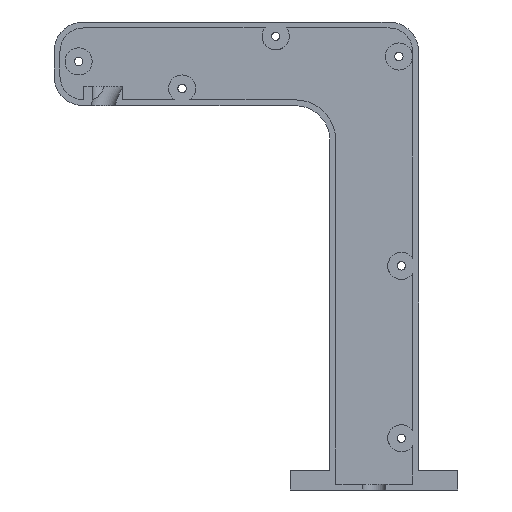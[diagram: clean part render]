
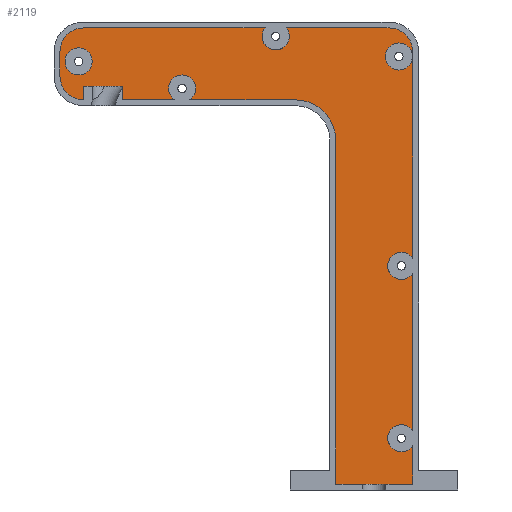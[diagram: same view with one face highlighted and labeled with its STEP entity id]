
A CAD part, left-side view. The second image highlights one B-rep face of the part: STEP entity #2119.
In plain terms, the highlighted planar face has unit normal (-1, 0, 0).
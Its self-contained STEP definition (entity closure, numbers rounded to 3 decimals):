
#1012 = VERTEX_POINT('',#1013);
#1013 = CARTESIAN_POINT('',(18.6,109.6,184.));
#1019 = EDGE_CURVE('',#1012,#1020,#1022,.T.);
#1020 = VERTEX_POINT('',#1021);
#1021 = CARTESIAN_POINT('',(18.6,100.,174.4));
#1022 = CIRCLE('',#1023,9.6);
#1023 = AXIS2_PLACEMENT_3D('',#1024,#1025,#1026);
#1024 = CARTESIAN_POINT('',(18.6,100.,184.));
#1025 = DIRECTION('',(-1.,0.,0.));
#1026 = DIRECTION('',(0.,1.,0.));
#1045 = VERTEX_POINT('',#1046);
#1046 = CARTESIAN_POINT('',(18.6,109.6,194.));
#1052 = EDGE_CURVE('',#1045,#1012,#1053,.T.);
#1053 = LINE('',#1054,#1055);
#1054 = CARTESIAN_POINT('',(18.6,109.6,194.));
#1055 = VECTOR('',#1056,1.);
#1056 = DIRECTION('',(0.,0.,-1.));
#1069 = VERTEX_POINT('',#1070);
#1070 = CARTESIAN_POINT('',(18.6,100.,203.6));
#1076 = EDGE_CURVE('',#1069,#1045,#1077,.T.);
#1077 = CIRCLE('',#1078,9.6);
#1078 = AXIS2_PLACEMENT_3D('',#1079,#1080,#1081);
#1079 = CARTESIAN_POINT('',(18.6,100.,194.));
#1080 = DIRECTION('',(-1.,0.,0.));
#1081 = DIRECTION('',(0.,0.,1.));
#1094 = VERTEX_POINT('',#1095);
#1095 = CARTESIAN_POINT('',(18.6,26.323,203.6));
#1101 = EDGE_CURVE('',#1094,#1069,#1102,.T.);
#1102 = LINE('',#1103,#1104);
#1103 = CARTESIAN_POINT('',(18.6,-24.,203.6));
#1104 = VECTOR('',#1105,1.);
#1105 = DIRECTION('',(0.,1.,0.));
#1117 = VERTEX_POINT('',#1118);
#1118 = CARTESIAN_POINT('',(18.6,17.677,203.6));
#1153 = EDGE_CURVE('',#1117,#1094,#1154,.T.);
#1154 = CIRCLE('',#1155,5.5);
#1155 = AXIS2_PLACEMENT_3D('',#1156,#1157,#1158);
#1156 = CARTESIAN_POINT('',(18.6,22.,200.2));
#1157 = DIRECTION('',(1.,0.,-0.));
#1158 = DIRECTION('',(0.,0.,1.));
#1183 = VERTEX_POINT('',#1184);
#1184 = CARTESIAN_POINT('',(18.6,-24.,203.6));
#1190 = EDGE_CURVE('',#1183,#1117,#1191,.T.);
#1191 = LINE('',#1192,#1193);
#1192 = CARTESIAN_POINT('',(18.6,-24.,203.6));
#1193 = VECTOR('',#1194,1.);
#1194 = DIRECTION('',(0.,1.,0.));
#1218 = VERTEX_POINT('',#1219);
#1219 = CARTESIAN_POINT('',(18.6,-33.6,194.));
#1225 = EDGE_CURVE('',#1218,#1183,#1226,.T.);
#1226 = CIRCLE('',#1227,9.6);
#1227 = AXIS2_PLACEMENT_3D('',#1228,#1229,#1230);
#1228 = CARTESIAN_POINT('',(18.6,-24.,194.));
#1229 = DIRECTION('',(-1.,0.,0.));
#1230 = DIRECTION('',(0.,-1.,0.));
#1243 = VERTEX_POINT('',#1244);
#1244 = CARTESIAN_POINT('',(18.6,-33.6,110.015));
#1250 = EDGE_CURVE('',#1243,#1218,#1251,.T.);
#1251 = LINE('',#1252,#1253);
#1252 = CARTESIAN_POINT('',(18.6,-33.6,18.4));
#1253 = VECTOR('',#1254,1.);
#1254 = DIRECTION('',(0.,0.,1.));
#1267 = EDGE_CURVE('',#1268,#1243,#1270,.T.);
#1268 = VERTEX_POINT('',#1269);
#1269 = CARTESIAN_POINT('',(18.6,-29.,112.5));
#1270 = CIRCLE('',#1271,5.5);
#1271 = AXIS2_PLACEMENT_3D('',#1272,#1273,#1274);
#1272 = CARTESIAN_POINT('',(18.6,-29.,107.));
#1273 = DIRECTION('',(1.,0.,-0.));
#1274 = DIRECTION('',(0.,0.,1.));
#1276 = EDGE_CURVE('',#1277,#1268,#1279,.T.);
#1277 = VERTEX_POINT('',#1278);
#1278 = CARTESIAN_POINT('',(18.6,-33.6,103.985));
#1279 = CIRCLE('',#1280,5.5);
#1280 = AXIS2_PLACEMENT_3D('',#1281,#1282,#1283);
#1281 = CARTESIAN_POINT('',(18.6,-29.,107.));
#1282 = DIRECTION('',(1.,0.,-0.));
#1283 = DIRECTION('',(0.,0.,1.));
#1301 = VERTEX_POINT('',#1302);
#1302 = CARTESIAN_POINT('',(18.6,-33.6,40.015));
#1308 = EDGE_CURVE('',#1301,#1277,#1309,.T.);
#1309 = LINE('',#1310,#1311);
#1310 = CARTESIAN_POINT('',(18.6,-33.6,18.4));
#1311 = VECTOR('',#1312,1.);
#1312 = DIRECTION('',(0.,0.,1.));
#1325 = EDGE_CURVE('',#1326,#1301,#1328,.T.);
#1326 = VERTEX_POINT('',#1327);
#1327 = CARTESIAN_POINT('',(18.6,-29.,42.5));
#1328 = CIRCLE('',#1329,5.5);
#1329 = AXIS2_PLACEMENT_3D('',#1330,#1331,#1332);
#1330 = CARTESIAN_POINT('',(18.6,-29.,37.));
#1331 = DIRECTION('',(1.,0.,-0.));
#1332 = DIRECTION('',(0.,0.,1.));
#1334 = EDGE_CURVE('',#1335,#1326,#1337,.T.);
#1335 = VERTEX_POINT('',#1336);
#1336 = CARTESIAN_POINT('',(18.6,-33.6,33.985));
#1337 = CIRCLE('',#1338,5.5);
#1338 = AXIS2_PLACEMENT_3D('',#1339,#1340,#1341);
#1339 = CARTESIAN_POINT('',(18.6,-29.,37.));
#1340 = DIRECTION('',(1.,0.,-0.));
#1341 = DIRECTION('',(0.,0.,1.));
#1359 = VERTEX_POINT('',#1360);
#1360 = CARTESIAN_POINT('',(18.6,-33.6,18.4));
#1366 = EDGE_CURVE('',#1359,#1335,#1367,.T.);
#1367 = LINE('',#1368,#1369);
#1368 = CARTESIAN_POINT('',(18.6,-33.6,18.4));
#1369 = VECTOR('',#1370,1.);
#1370 = DIRECTION('',(0.,0.,1.));
#1392 = VERTEX_POINT('',#1393);
#1393 = CARTESIAN_POINT('',(18.6,-2.4,18.4));
#1399 = EDGE_CURVE('',#1392,#1359,#1400,.T.);
#1400 = LINE('',#1401,#1402);
#1401 = CARTESIAN_POINT('',(18.6,-2.4,18.4));
#1402 = VECTOR('',#1403,1.);
#1403 = DIRECTION('',(0.,-1.,0.));
#2098 = VERTEX_POINT('',#2099);
#2099 = CARTESIAN_POINT('',(18.6,63.015,174.4));
#2109 = EDGE_CURVE('',#1020,#2098,#2110,.T.);
#2110 = LINE('',#2111,#2112);
#2111 = CARTESIAN_POINT('',(18.6,100.,174.4));
#2112 = VECTOR('',#2113,1.);
#2113 = DIRECTION('',(0.,-1.,0.));
#2119 = ADVANCED_FACE('',(#2120,#2179,#2190),#2201,.T.);
#2120 = FACE_BOUND('',#2121,.T.);
#2121 = EDGE_LOOP('',(#2122,#2132,#2141,#2147,#2148,#2149,#2150,#2151,
    #2152,#2153,#2154,#2155,#2156,#2157,#2158,#2159,#2160,#2161,#2162,
    #2163,#2172));
#2122 = ORIENTED_EDGE('',*,*,#2123,.T.);
#2123 = EDGE_CURVE('',#2124,#2126,#2128,.T.);
#2124 = VERTEX_POINT('',#2125);
#2125 = CARTESIAN_POINT('',(18.6,56.985,174.4));
#2126 = VERTEX_POINT('',#2127);
#2127 = CARTESIAN_POINT('',(18.6,14.,174.4));
#2128 = LINE('',#2129,#2130);
#2129 = CARTESIAN_POINT('',(18.6,100.,174.4));
#2130 = VECTOR('',#2131,1.);
#2131 = DIRECTION('',(0.,-1.,0.));
#2132 = ORIENTED_EDGE('',*,*,#2133,.T.);
#2133 = EDGE_CURVE('',#2126,#2134,#2136,.T.);
#2134 = VERTEX_POINT('',#2135);
#2135 = CARTESIAN_POINT('',(18.6,-2.4,158.));
#2136 = CIRCLE('',#2137,16.4);
#2137 = AXIS2_PLACEMENT_3D('',#2138,#2139,#2140);
#2138 = CARTESIAN_POINT('',(18.6,14.,158.));
#2139 = DIRECTION('',(1.,0.,0.));
#2140 = DIRECTION('',(0.,0.,1.));
#2141 = ORIENTED_EDGE('',*,*,#2142,.T.);
#2142 = EDGE_CURVE('',#2134,#1392,#2143,.T.);
#2143 = LINE('',#2144,#2145);
#2144 = CARTESIAN_POINT('',(18.6,-2.4,158.));
#2145 = VECTOR('',#2146,1.);
#2146 = DIRECTION('',(0.,0.,-1.));
#2147 = ORIENTED_EDGE('',*,*,#1399,.T.);
#2148 = ORIENTED_EDGE('',*,*,#1366,.T.);
#2149 = ORIENTED_EDGE('',*,*,#1334,.T.);
#2150 = ORIENTED_EDGE('',*,*,#1325,.T.);
#2151 = ORIENTED_EDGE('',*,*,#1308,.T.);
#2152 = ORIENTED_EDGE('',*,*,#1276,.T.);
#2153 = ORIENTED_EDGE('',*,*,#1267,.T.);
#2154 = ORIENTED_EDGE('',*,*,#1250,.T.);
#2155 = ORIENTED_EDGE('',*,*,#1225,.T.);
#2156 = ORIENTED_EDGE('',*,*,#1190,.T.);
#2157 = ORIENTED_EDGE('',*,*,#1153,.T.);
#2158 = ORIENTED_EDGE('',*,*,#1101,.T.);
#2159 = ORIENTED_EDGE('',*,*,#1076,.T.);
#2160 = ORIENTED_EDGE('',*,*,#1052,.T.);
#2161 = ORIENTED_EDGE('',*,*,#1019,.T.);
#2162 = ORIENTED_EDGE('',*,*,#2109,.T.);
#2163 = ORIENTED_EDGE('',*,*,#2164,.T.);
#2164 = EDGE_CURVE('',#2098,#2165,#2167,.T.);
#2165 = VERTEX_POINT('',#2166);
#2166 = CARTESIAN_POINT('',(18.6,60.,184.5));
#2167 = CIRCLE('',#2168,5.5);
#2168 = AXIS2_PLACEMENT_3D('',#2169,#2170,#2171);
#2169 = CARTESIAN_POINT('',(18.6,60.,179.));
#2170 = DIRECTION('',(1.,0.,-0.));
#2171 = DIRECTION('',(0.,0.,1.));
#2172 = ORIENTED_EDGE('',*,*,#2173,.T.);
#2173 = EDGE_CURVE('',#2165,#2124,#2174,.T.);
#2174 = CIRCLE('',#2175,5.5);
#2175 = AXIS2_PLACEMENT_3D('',#2176,#2177,#2178);
#2176 = CARTESIAN_POINT('',(18.6,60.,179.));
#2177 = DIRECTION('',(1.,0.,-0.));
#2178 = DIRECTION('',(0.,0.,1.));
#2179 = FACE_BOUND('',#2180,.T.);
#2180 = EDGE_LOOP('',(#2181));
#2181 = ORIENTED_EDGE('',*,*,#2182,.T.);
#2182 = EDGE_CURVE('',#2183,#2183,#2185,.T.);
#2183 = VERTEX_POINT('',#2184);
#2184 = CARTESIAN_POINT('',(18.6,102.,195.5));
#2185 = CIRCLE('',#2186,5.5);
#2186 = AXIS2_PLACEMENT_3D('',#2187,#2188,#2189);
#2187 = CARTESIAN_POINT('',(18.6,102.,190.));
#2188 = DIRECTION('',(1.,0.,-0.));
#2189 = DIRECTION('',(0.,0.,1.));
#2190 = FACE_BOUND('',#2191,.T.);
#2191 = EDGE_LOOP('',(#2192));
#2192 = ORIENTED_EDGE('',*,*,#2193,.T.);
#2193 = EDGE_CURVE('',#2194,#2194,#2196,.T.);
#2194 = VERTEX_POINT('',#2195);
#2195 = CARTESIAN_POINT('',(18.6,-28.,197.5));
#2196 = CIRCLE('',#2197,5.5);
#2197 = AXIS2_PLACEMENT_3D('',#2198,#2199,#2200);
#2198 = CARTESIAN_POINT('',(18.6,-28.,192.));
#2199 = DIRECTION('',(1.,0.,-0.));
#2200 = DIRECTION('',(0.,0.,1.));
#2201 = PLANE('',#2202);
#2202 = AXIS2_PLACEMENT_3D('',#2203,#2204,#2205);
#2203 = CARTESIAN_POINT('',(18.6,10.561,135.99));
#2204 = DIRECTION('',(-1.,-0.,-0.));
#2205 = DIRECTION('',(0.,0.,-1.));
